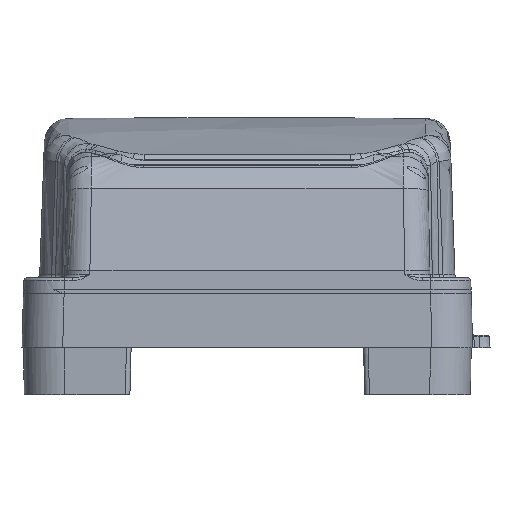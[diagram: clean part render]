
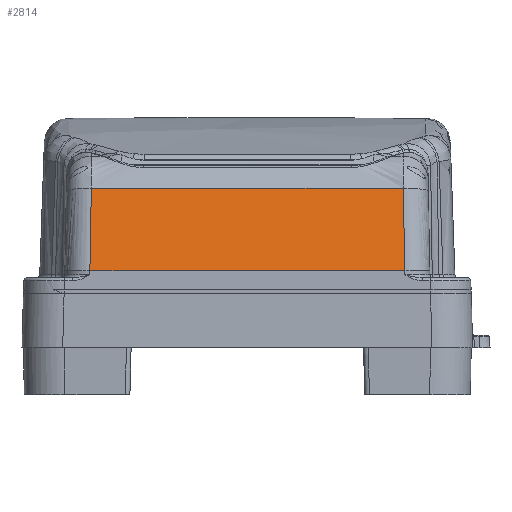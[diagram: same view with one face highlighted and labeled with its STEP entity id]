
A CAD part, left-side view. The second image highlights one B-rep face of the part: STEP entity #2814.
In plain terms, the highlighted planar face has unit normal (-0.985, 0, 0.174).
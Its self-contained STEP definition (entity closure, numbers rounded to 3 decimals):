
#380 = CARTESIAN_POINT ( 'NONE',  ( -98.745, 50.258, 20.069 ) ) ;
#1551 = CARTESIAN_POINT ( 'NONE',  ( -98.745, -50.278, 20.069 ) ) ;
#2081 = CARTESIAN_POINT ( 'NONE',  ( -94.098, 49.818, 46.42 ) ) ;
#2397 = VERTEX_POINT ( 'NONE', #1551 ) ;
#2699 = B_SPLINE_CURVE_WITH_KNOTS ( 'NONE', 3,
 ( #5918, #3466, #15331, #13200 ),
 .UNSPECIFIED., .F., .F.,
 ( 4, 4 ),
 ( 0., 1. ),
 .UNSPECIFIED. ) ;
#2814 = ADVANCED_FACE ( 'NONE', ( #21508 ), #14333, .F. ) ;
#3466 = CARTESIAN_POINT ( 'NONE',  ( -94.098, -16.606, 46.42 ) ) ;
#4082 = CARTESIAN_POINT ( 'NONE',  ( -98.745, -50.258, 20.069 ) ) ;
#4154 = CARTESIAN_POINT ( 'NONE',  ( -98.745, 50.258, 20.069 ) ) ;
#4274 = DIRECTION ( 'NONE',  ( 0.985, 0., -0.174 ) ) ;
#4748 = CARTESIAN_POINT ( 'NONE',  ( -98.745, 50.278, 20.069 ) ) ;
#5918 = CARTESIAN_POINT ( 'NONE',  ( -94.098, -49.818, 46.42 ) ) ;
#6617 = VERTEX_POINT ( 'NONE', #17095 ) ;
#6632 = ORIENTED_EDGE ( 'NONE', *, *, #13953, .F. ) ;
#6702 = CARTESIAN_POINT ( 'NONE',  ( -98.756, -63.256, 20.007 ) ) ;
#7234 = VERTEX_POINT ( 'NONE', #12965 ) ;
#10191 = CARTESIAN_POINT ( 'NONE',  ( -98.745, -50.265, 20.069 ) ) ;
#11335 = EDGE_CURVE ( 'NONE', #2397, #7234, #14044, .T. ) ;
#11430 = EDGE_LOOP ( 'NONE', ( #31143, #25249, #27539, #12155, #25056, #6632 ) ) ;
#11734 = B_SPLINE_CURVE_WITH_KNOTS ( 'NONE', 3,
 ( #19947, #26985, #10191, #29563 ),
 .UNSPECIFIED., .F., .F.,
 ( 4, 4 ),
 ( 0., 1. ),
 .UNSPECIFIED. ) ;
#12155 = ORIENTED_EDGE ( 'NONE', *, *, #14952, .F. ) ;
#12233 = CARTESIAN_POINT ( 'NONE',  ( -98.745, -16.753, 20.069 ) ) ;
#12338 = CARTESIAN_POINT ( 'NONE',  ( -97.196, 50.124, 28.853 ) ) ;
#12728 = EDGE_CURVE ( 'NONE', #7234, #21396, #2699, .T. ) ;
#12965 = CARTESIAN_POINT ( 'NONE',  ( -94.098, -49.818, 46.42 ) ) ;
#13111 = CARTESIAN_POINT ( 'NONE',  ( -98.745, -50.278, 20.069 ) ) ;
#13200 = CARTESIAN_POINT ( 'NONE',  ( -94.098, 49.818, 46.42 ) ) ;
#13953 = EDGE_CURVE ( 'NONE', #2397, #19824, #11734, .T. ) ;
#14044 = B_SPLINE_CURVE_WITH_KNOTS ( 'NONE', 3,
 ( #13111, #23060, #31809, #26790 ),
 .UNSPECIFIED., .F., .F.,
 ( 4, 4 ),
 ( 0., 1. ),
 .UNSPECIFIED. ) ;
#14333 = PLANE ( 'NONE',  #28248 ) ;
#14952 = EDGE_CURVE ( 'NONE', #18427, #6617, #28860, .T. ) ;
#15074 = CARTESIAN_POINT ( 'NONE',  ( -98.745, 50.271, 20.069 ) ) ;
#15188 = EDGE_CURVE ( 'NONE', #19824, #18427, #21144, .T. ) ;
#15331 = CARTESIAN_POINT ( 'NONE',  ( -94.098, 16.606, 46.42 ) ) ;
#17095 = CARTESIAN_POINT ( 'NONE',  ( -98.745, 50.278, 20.069 ) ) ;
#18427 = VERTEX_POINT ( 'NONE', #4154 ) ;
#19824 = VERTEX_POINT ( 'NONE', #4082 ) ;
#19947 = CARTESIAN_POINT ( 'NONE',  ( -98.745, -50.278, 20.069 ) ) ;
#20438 = CARTESIAN_POINT ( 'NONE',  ( -98.745, 50.258, 20.069 ) ) ;
#20632 = B_SPLINE_CURVE_WITH_KNOTS ( 'NONE', 3,
 ( #22460, #24742, #12338, #4748 ),
 .UNSPECIFIED., .F., .F.,
 ( 4, 4 ),
 ( 0., 1. ),
 .UNSPECIFIED. ) ;
#21144 = B_SPLINE_CURVE_WITH_KNOTS ( 'NONE', 3,
 ( #22506, #12233, #26914, #380 ),
 .UNSPECIFIED., .F., .F.,
 ( 4, 4 ),
 ( 0., 1. ),
 .UNSPECIFIED. ) ;
#21396 = VERTEX_POINT ( 'NONE', #2081 ) ;
#21508 = FACE_OUTER_BOUND ( 'NONE', #11430, .T. ) ;
#21992 = DIRECTION ( 'NONE',  ( -0.113, 0.757, -0.644 ) ) ;
#22425 = CARTESIAN_POINT ( 'NONE',  ( -98.745, 50.265, 20.069 ) ) ;
#22460 = CARTESIAN_POINT ( 'NONE',  ( -94.098, 49.818, 46.42 ) ) ;
#22506 = CARTESIAN_POINT ( 'NONE',  ( -98.745, -50.258, 20.069 ) ) ;
#23060 = CARTESIAN_POINT ( 'NONE',  ( -97.196, -50.124, 28.853 ) ) ;
#24742 = CARTESIAN_POINT ( 'NONE',  ( -95.647, 49.971, 37.636 ) ) ;
#25056 = ORIENTED_EDGE ( 'NONE', *, *, #15188, .F. ) ;
#25249 = ORIENTED_EDGE ( 'NONE', *, *, #12728, .T. ) ;
#25412 = EDGE_CURVE ( 'NONE', #21396, #6617, #20632, .T. ) ;
#26790 = CARTESIAN_POINT ( 'NONE',  ( -94.098, -49.818, 46.42 ) ) ;
#26914 = CARTESIAN_POINT ( 'NONE',  ( -98.745, 16.753, 20.069 ) ) ;
#26985 = CARTESIAN_POINT ( 'NONE',  ( -98.745, -50.271, 20.069 ) ) ;
#27539 = ORIENTED_EDGE ( 'NONE', *, *, #25412, .T. ) ;
#28248 = AXIS2_PLACEMENT_3D ( 'NONE', #6702, #4274, #21992 ) ;
#28860 = B_SPLINE_CURVE_WITH_KNOTS ( 'NONE', 3,
 ( #20438, #22425, #15074, #29883 ),
 .UNSPECIFIED., .F., .F.,
 ( 4, 4 ),
 ( 0., 1. ),
 .UNSPECIFIED. ) ;
#29563 = CARTESIAN_POINT ( 'NONE',  ( -98.745, -50.258, 20.069 ) ) ;
#29883 = CARTESIAN_POINT ( 'NONE',  ( -98.745, 50.278, 20.069 ) ) ;
#31143 = ORIENTED_EDGE ( 'NONE', *, *, #11335, .T. ) ;
#31809 = CARTESIAN_POINT ( 'NONE',  ( -95.647, -49.971, 37.636 ) ) ;
